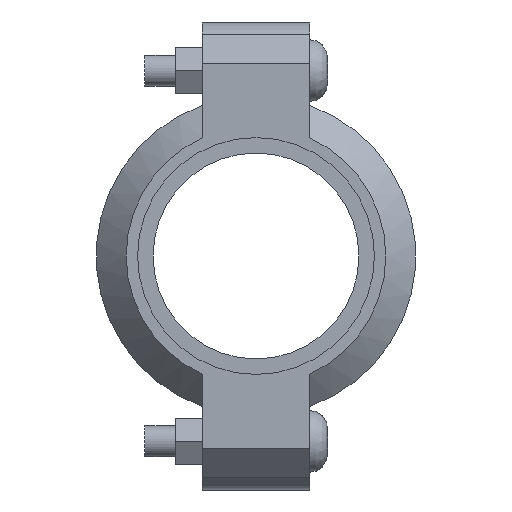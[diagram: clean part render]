
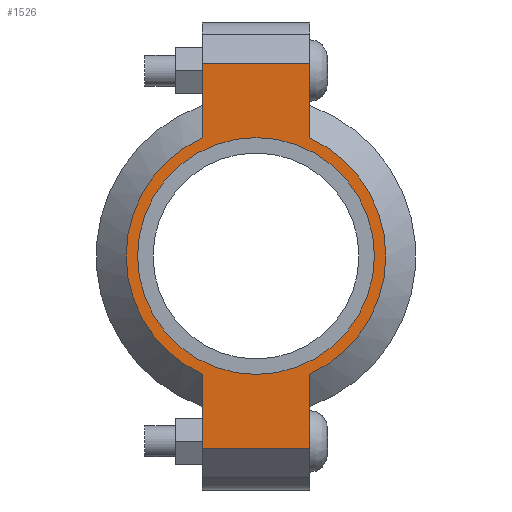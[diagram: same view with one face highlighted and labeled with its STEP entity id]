
A CAD part, left-side view. The second image highlights one B-rep face of the part: STEP entity #1526.
In plain terms, the highlighted planar face has unit normal (-1, 0, 0) as drawn and (0, 0, 1) by its records, which use the part's own axes.
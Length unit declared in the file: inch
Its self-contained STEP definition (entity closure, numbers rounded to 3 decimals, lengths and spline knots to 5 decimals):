
#150=LINE('',#2663,#243);
#158=LINE('',#2699,#251);
#165=LINE('',#2720,#258);
#174=LINE('',#2752,#267);
#175=LINE('',#2756,#268);
#176=LINE('',#2758,#269);
#243=VECTOR('',#2175,0.3937);
#251=VECTOR('',#2191,0.3937);
#258=VECTOR('',#2210,0.3937);
#267=VECTOR('',#2235,0.3937);
#268=VECTOR('',#2240,0.3937);
#269=VECTOR('',#2241,0.3937);
#325=FACE_BOUND('',#503,.T.);
#397=FACE_OUTER_BOUND('',#502,.T.);
#502=EDGE_LOOP('',(#1267,#1268,#1269,#1270,#1271,#1272,#1273,#1274));
#503=EDGE_LOOP('',(#1275));
#575=CIRCLE('',#1745,1.4375);
#601=CIRCLE('',#1804,1.575);
#602=CIRCLE('',#1805,1.575);
#667=VERTEX_POINT('',#2479);
#710=VERTEX_POINT('',#2660);
#711=VERTEX_POINT('',#2662);
#722=VERTEX_POINT('',#2694);
#723=VERTEX_POINT('',#2698);
#730=VERTEX_POINT('',#2717);
#731=VERTEX_POINT('',#2719);
#741=VERTEX_POINT('',#2755);
#742=VERTEX_POINT('',#2757);
#823=EDGE_CURVE('',#667,#667,#575,.T.);
#884=EDGE_CURVE('',#711,#710,#150,.T.);
#898=EDGE_CURVE('',#723,#722,#158,.T.);
#908=EDGE_CURVE('',#731,#730,#165,.T.);
#923=EDGE_CURVE('',#723,#710,#174,.T.);
#924=EDGE_CURVE('',#722,#731,#601,.T.);
#925=EDGE_CURVE('',#741,#730,#175,.T.);
#926=EDGE_CURVE('',#741,#742,#176,.T.);
#927=EDGE_CURVE('',#742,#711,#602,.T.);
#1267=ORIENTED_EDGE('',*,*,#923,.F.);
#1268=ORIENTED_EDGE('',*,*,#898,.T.);
#1269=ORIENTED_EDGE('',*,*,#924,.T.);
#1270=ORIENTED_EDGE('',*,*,#908,.T.);
#1271=ORIENTED_EDGE('',*,*,#925,.F.);
#1272=ORIENTED_EDGE('',*,*,#926,.T.);
#1273=ORIENTED_EDGE('',*,*,#927,.T.);
#1274=ORIENTED_EDGE('',*,*,#884,.T.);
#1275=ORIENTED_EDGE('',*,*,#823,.T.);
#1368=PLANE('',#1803);
#1526=ADVANCED_FACE('',(#397,#325),#1368,.T.);
#1745=AXIS2_PLACEMENT_3D('',#2481,#2051,#2052);
#1803=AXIS2_PLACEMENT_3D('',#2753,#2236,#2237);
#1804=AXIS2_PLACEMENT_3D('',#2754,#2238,#2239);
#1805=AXIS2_PLACEMENT_3D('',#2759,#2242,#2243);
#2051=DIRECTION('center_axis',(0.,0.,-1.));
#2052=DIRECTION('ref_axis',(-1.,0.,0.));
#2175=DIRECTION('',(-1.,0.,0.));
#2191=DIRECTION('',(1.,0.,0.));
#2210=DIRECTION('',(1.,0.,0.));
#2235=DIRECTION('',(0.,1.,0.));
#2236=DIRECTION('center_axis',(0.,0.,1.));
#2237=DIRECTION('ref_axis',(1.,0.,0.));
#2238=DIRECTION('center_axis',(0.,0.,1.));
#2239=DIRECTION('ref_axis',(-1.,0.,0.));
#2240=DIRECTION('',(0.,-1.,0.));
#2241=DIRECTION('',(-1.,0.,0.));
#2242=DIRECTION('center_axis',(0.,0.,1.));
#2243=DIRECTION('ref_axis',(-1.,0.,0.));
#2479=CARTESIAN_POINT('',(1.4375,0.,0.94));
#2481=CARTESIAN_POINT('Origin',(0.,0.,0.94));
#2660=CARTESIAN_POINT('',(-2.34,0.65,0.94));
#2662=CARTESIAN_POINT('',(-1.43462,0.65,0.94));
#2663=CARTESIAN_POINT('',(-2.84,0.65,0.94));
#2694=CARTESIAN_POINT('',(-1.43462,-0.65,0.94));
#2698=CARTESIAN_POINT('',(-2.34,-0.65,0.94));
#2699=CARTESIAN_POINT('',(2.84,-0.65,0.94));
#2717=CARTESIAN_POINT('',(2.34,-0.65,0.94));
#2719=CARTESIAN_POINT('',(1.43462,-0.65,0.94));
#2720=CARTESIAN_POINT('',(2.84,-0.65,0.94));
#2752=CARTESIAN_POINT('',(-2.34,0.325,0.94));
#2753=CARTESIAN_POINT('Origin',(0.,0.,
0.94));
#2754=CARTESIAN_POINT('Origin',(0.,0.,0.94));
#2755=CARTESIAN_POINT('',(2.34,0.65,0.94));
#2756=CARTESIAN_POINT('',(2.34,-0.325,0.94));
#2757=CARTESIAN_POINT('',(1.43462,0.65,0.94));
#2758=CARTESIAN_POINT('',(-2.84,0.65,0.94));
#2759=CARTESIAN_POINT('Origin',(0.,0.,0.94));
